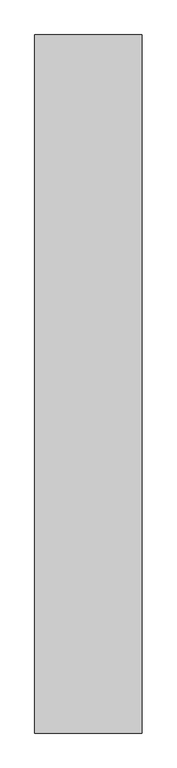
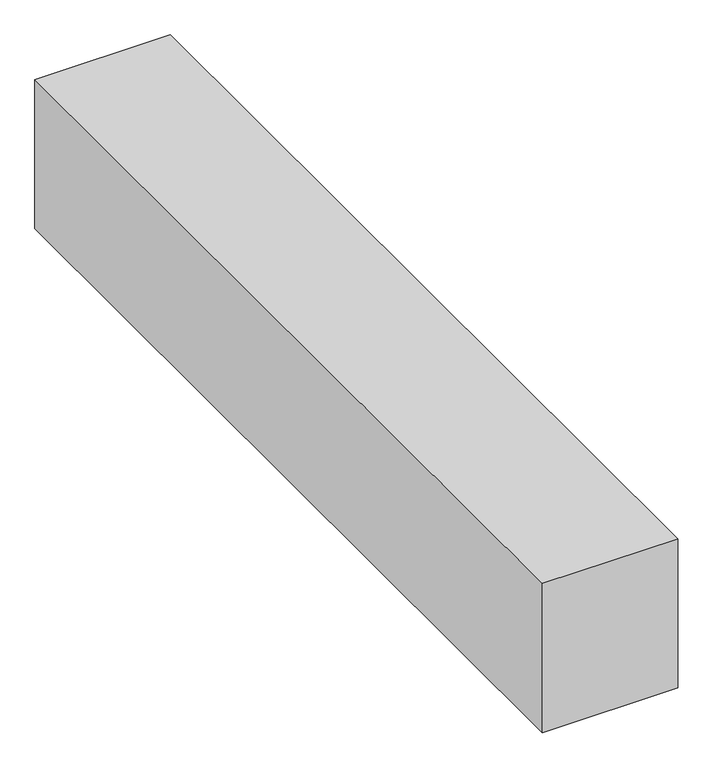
"""IFC4 building model written with IfcOpenShell, lengths in millimetres: proxy geometry, 制気口ボックス : 制気口ボックス."""

from ifc_helpers import new_model, si_unit, frame, origin, place, context, project, spatial, polyline, outline, extrude, source, transform, mapped, element, save


def mechanical_equipment_cfd2ae87(model_context):
    return source(origin(), model_context, "Body", "SweptSolid", [
        extrude(outline(polyline([(150.0, 975.0), (150.0, -975.0), (-150.0, -975.0), (-150.0, 975.0), (150.0, 975.0)])), frame((0.0, 0.0, -175.0), z_axis=(0.0, 0.0, 1.0), x_axis=(1.0, 0.0, 0.0)), (0.0, 0.0, 1.0), 350.0),
    ])


if __name__ == "__main__":
    model = new_model("IFC4")
    model_context = context("Model", 3, world=origin())
    ifc_project = project(units=[si_unit("LENGTHUNIT", "METRE", prefix="MILLI")], contexts=[model_context])
    site = spatial("IfcSite", under=ifc_project)
    building = spatial("IfcBuilding", under=site)
    placement = place(None, origin())
    mechanical_equipment_shape = mechanical_equipment_cfd2ae87(model_context)
    element("IfcBuildingElementProxy", 1, Name="制気口ボックス : 制気口ボックス", ObjectType="制気口ボックス : 制気口ボックス", at=placement, inside=building, context=model_context, shape_type="MappedRepresentation", body=[
        mapped(mechanical_equipment_shape, transform((0.0, 0.0, 0.0), x_axis=(1.0, 0.0, 0.0), y_axis=(0.0, 1.0, 0.0), z_axis=(0.0, 0.0, 1.0))),
    ])
    save(model, "model.ifc")
